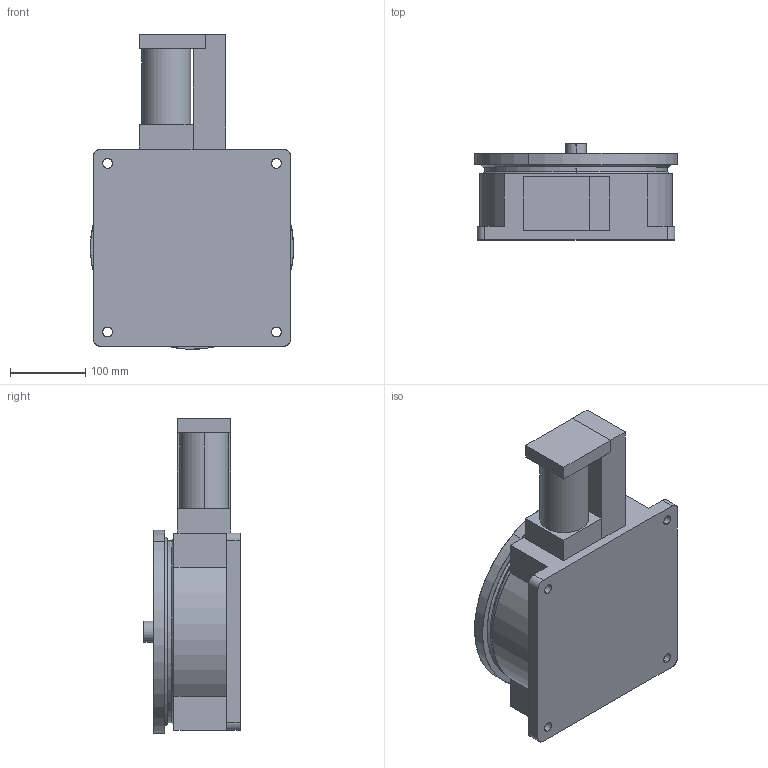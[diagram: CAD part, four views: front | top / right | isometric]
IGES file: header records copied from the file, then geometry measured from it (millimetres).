
Start section: SolidWorks IGES file using analytic representation for surfaces
Global section: file name: F:\grp\iges\grp 270.IGS; native system: SolidWorks 2010; preprocessor: SolidWorks 2010; author: 1edpi; date: 140225.080243; units: millimetre
Bounding box: 269.99 x 128 x 417.99 mm (x, y, z)
Surface area: 453165.9 mm2 (no closed solid volume)
Topology: 0 solids, 0 shells, 84 faces, 1928 edges, 1928 vertices
Faces by surface type: revolution 46, bspline 38
